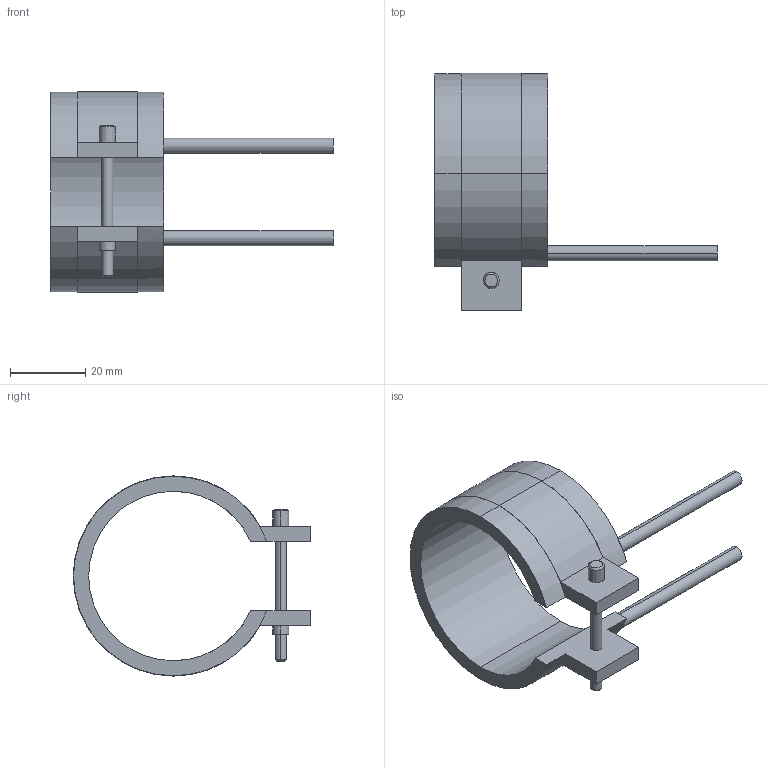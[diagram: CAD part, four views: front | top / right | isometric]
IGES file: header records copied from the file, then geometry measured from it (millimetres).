
Start section: START RECORD GO HERE.
Global section: file name: 14045030.igs; native system: DASSAULT SYSTEMES CATIA V5 R20 - www.3ds.com; preprocessor: CATIA Version 5 Release 20 ; author: Utente; organization: NB04-ASUS; date: 20210331.140016; units: millimetre
Bounding box: 75 x 63.1 x 53.2 mm (x, y, z)
Surface area: 11908.6 mm2 (no closed solid volume)
Topology: 0 solids, 0 shells, 45 faces, 232 edges, 232 vertices
Faces by surface type: revolution 28, plane 17
